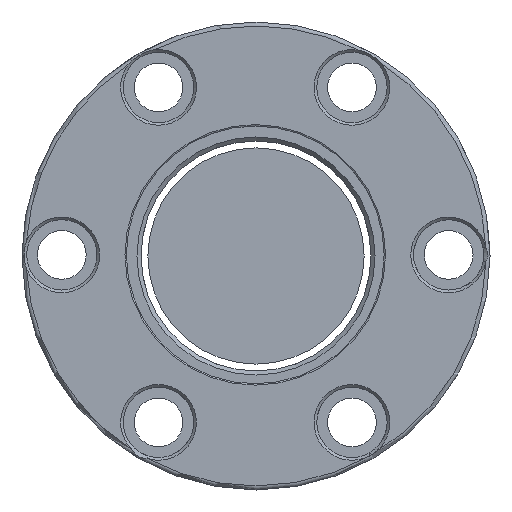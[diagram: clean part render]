
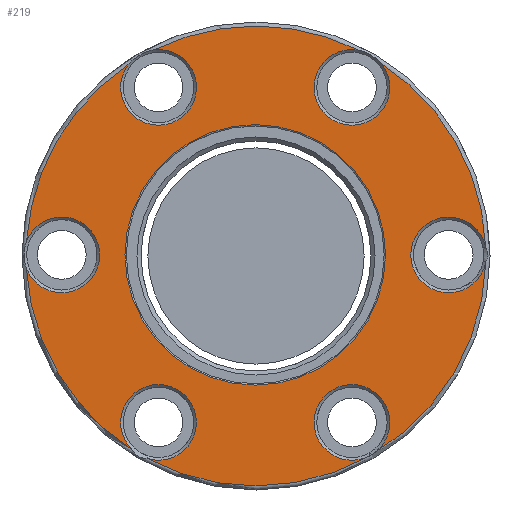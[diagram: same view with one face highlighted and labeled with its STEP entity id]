
A CAD part, front view. The second image highlights one B-rep face of the part: STEP entity #219.
In plain terms, the highlighted planar face has unit normal (0, -1, 0).
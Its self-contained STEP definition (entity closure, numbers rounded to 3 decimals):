
#159=PLANE('',#1124);
#219=ADVANCED_FACE('',(#329,#330),#159,.T.);
#329=FACE_BOUND('',#461,.T.);
#330=FACE_BOUND('',#462,.T.);
#461=EDGE_LOOP('',(#635));
#462=EDGE_LOOP('',(#636,#637,#638,#639,#640,#641,#642,#643,#644,#645,#646,
#647));
#635=ORIENTED_EDGE('',*,*,#907,.T.);
#636=ORIENTED_EDGE('',*,*,#908,.T.);
#637=ORIENTED_EDGE('',*,*,#909,.T.);
#638=ORIENTED_EDGE('',*,*,#910,.T.);
#639=ORIENTED_EDGE('',*,*,#911,.T.);
#640=ORIENTED_EDGE('',*,*,#912,.T.);
#641=ORIENTED_EDGE('',*,*,#913,.T.);
#642=ORIENTED_EDGE('',*,*,#914,.T.);
#643=ORIENTED_EDGE('',*,*,#915,.T.);
#644=ORIENTED_EDGE('',*,*,#916,.T.);
#645=ORIENTED_EDGE('',*,*,#917,.T.);
#646=ORIENTED_EDGE('',*,*,#918,.T.);
#647=ORIENTED_EDGE('',*,*,#919,.T.);
#809=VERTEX_POINT('',#1645);
#810=VERTEX_POINT('',#1647);
#811=VERTEX_POINT('',#1648);
#812=VERTEX_POINT('',#1650);
#813=VERTEX_POINT('',#1652);
#814=VERTEX_POINT('',#1654);
#815=VERTEX_POINT('',#1656);
#816=VERTEX_POINT('',#1658);
#817=VERTEX_POINT('',#1660);
#818=VERTEX_POINT('',#1662);
#819=VERTEX_POINT('',#1664);
#820=VERTEX_POINT('',#1666);
#821=VERTEX_POINT('',#1668);
#907=EDGE_CURVE('',#809,#809,#1001,.T.);
#908=EDGE_CURVE('',#810,#811,#1002,.T.);
#909=EDGE_CURVE('',#811,#812,#1003,.T.);
#910=EDGE_CURVE('',#812,#813,#1004,.T.);
#911=EDGE_CURVE('',#813,#814,#1005,.T.);
#912=EDGE_CURVE('',#814,#815,#1006,.T.);
#913=EDGE_CURVE('',#815,#816,#1007,.T.);
#914=EDGE_CURVE('',#816,#817,#1008,.T.);
#915=EDGE_CURVE('',#817,#818,#1009,.T.);
#916=EDGE_CURVE('',#818,#819,#1010,.T.);
#917=EDGE_CURVE('',#819,#820,#1011,.T.);
#918=EDGE_CURVE('',#820,#821,#1012,.T.);
#919=EDGE_CURVE('',#821,#810,#1013,.T.);
#1001=CIRCLE('',#1111,48.15);
#1002=CIRCLE('',#1112,85.);
#1003=CIRCLE('',#1113,14.);
#1004=CIRCLE('',#1114,85.);
#1005=CIRCLE('',#1115,14.);
#1006=CIRCLE('',#1116,85.);
#1007=CIRCLE('',#1117,14.);
#1008=CIRCLE('',#1118,85.);
#1009=CIRCLE('',#1119,14.);
#1010=CIRCLE('',#1120,85.);
#1011=CIRCLE('',#1121,14.);
#1012=CIRCLE('',#1122,85.);
#1013=CIRCLE('',#1123,14.);
#1111=AXIS2_PLACEMENT_3D('',#1644,#1345,#1346);
#1112=AXIS2_PLACEMENT_3D('',#1646,#1347,#1348);
#1113=AXIS2_PLACEMENT_3D('',#1649,#1349,#1350);
#1114=AXIS2_PLACEMENT_3D('',#1651,#1351,#1352);
#1115=AXIS2_PLACEMENT_3D('',#1653,#1353,#1354);
#1116=AXIS2_PLACEMENT_3D('',#1655,#1355,#1356);
#1117=AXIS2_PLACEMENT_3D('',#1657,#1357,#1358);
#1118=AXIS2_PLACEMENT_3D('',#1659,#1359,#1360);
#1119=AXIS2_PLACEMENT_3D('',#1661,#1361,#1362);
#1120=AXIS2_PLACEMENT_3D('',#1663,#1363,#1364);
#1121=AXIS2_PLACEMENT_3D('',#1665,#1365,#1366);
#1122=AXIS2_PLACEMENT_3D('',#1667,#1367,#1368);
#1123=AXIS2_PLACEMENT_3D('',#1669,#1369,#1370);
#1124=AXIS2_PLACEMENT_3D('',#1670,#1371,#1372);
#1345=DIRECTION('',(0.,1.,0.));
#1346=DIRECTION('',(0.,0.,-1.));
#1347=DIRECTION('',(0.,-1.,0.));
#1348=DIRECTION('',(0.,0.,-1.));
#1349=DIRECTION('',(0.,1.,0.));
#1350=DIRECTION('',(0.,0.,-1.));
#1351=DIRECTION('',(0.,-1.,0.));
#1352=DIRECTION('',(0.,0.,-1.));
#1353=DIRECTION('',(0.,1.,0.));
#1354=DIRECTION('',(0.,0.,-1.));
#1355=DIRECTION('',(0.,-1.,0.));
#1356=DIRECTION('',(0.,0.,-1.));
#1357=DIRECTION('',(0.,1.,0.));
#1358=DIRECTION('',(0.,0.,-1.));
#1359=DIRECTION('',(0.,-1.,0.));
#1360=DIRECTION('',(0.,0.,-1.));
#1361=DIRECTION('',(0.,1.,0.));
#1362=DIRECTION('',(0.,0.,-1.));
#1363=DIRECTION('',(0.,-1.,0.));
#1364=DIRECTION('',(0.,0.,-1.));
#1365=DIRECTION('',(0.,1.,0.));
#1366=DIRECTION('',(0.,0.,-1.));
#1367=DIRECTION('',(0.,-1.,0.));
#1368=DIRECTION('',(0.,0.,-1.));
#1369=DIRECTION('',(0.,1.,0.));
#1370=DIRECTION('',(0.,0.,-1.));
#1371=DIRECTION('',(0.,-1.,0.));
#1372=DIRECTION('',(0.,0.,-1.));
#1644=CARTESIAN_POINT('',(0.,0.,0.));
#1645=CARTESIAN_POINT('',(0.,0.,-48.15));
#1646=CARTESIAN_POINT('',(0.282,0.,-0.413));
#1647=CARTESIAN_POINT('',(-40.009,0.,-75.257));
#1648=CARTESIAN_POINT('',(42.555,0.,-74.156));
#1649=CARTESIAN_POINT('',(35.75,0.,-61.921));
#1650=CARTESIAN_POINT('',(42.931,0.,-73.939));
#1651=CARTESIAN_POINT('',(0.282,0.,-0.413));
#1652=CARTESIAN_POINT('',(85.253,0.,-2.618));
#1653=CARTESIAN_POINT('',(71.5,0.,0.));
#1654=CARTESIAN_POINT('',(85.222,0.,2.777));
#1655=CARTESIAN_POINT('',(0.282,0.,-0.413));
#1656=CARTESIAN_POINT('',(46.438,0.,70.963));
#1657=CARTESIAN_POINT('',(35.75,0.,61.921));
#1658=CARTESIAN_POINT('',(38.064,0.,75.728));
#1659=CARTESIAN_POINT('',(0.282,0.,-0.413));
#1660=CARTESIAN_POINT('',(-37.281,0.,75.837));
#1661=CARTESIAN_POINT('',(-35.75,0.,61.921));
#1662=CARTESIAN_POINT('',(-47.045,0.,70.193));
#1663=CARTESIAN_POINT('',(0.282,0.,-0.413));
#1664=CARTESIAN_POINT('',(-84.54,0.,5.096));
#1665=CARTESIAN_POINT('',(-71.5,0.,0.));
#1666=CARTESIAN_POINT('',(-84.597,0.,-4.945));
#1667=CARTESIAN_POINT('',(0.282,0.,-0.413));
#1668=CARTESIAN_POINT('',(-45.3,0.,-72.158));
#1669=CARTESIAN_POINT('',(-35.75,0.,-61.921));
#1670=CARTESIAN_POINT('',(0.282,0.,-0.413));
